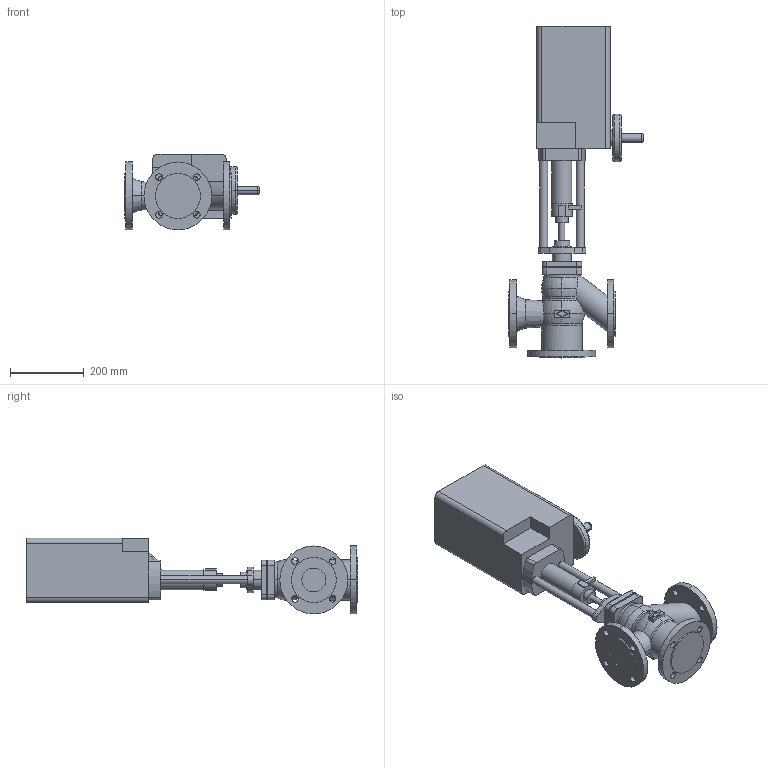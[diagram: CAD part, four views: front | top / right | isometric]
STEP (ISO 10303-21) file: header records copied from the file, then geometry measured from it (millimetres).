
FILE_DESCRIPTION(('OneSpaceDesigner STEP Export'),'2;1');
FILE_NAME('c000002401.stp','2006-09-19T12:01:57',(''),(''),'OneSpace Designer STEP processor for AP214 (Solid Model)','OneSpace Designer 13.20A 18-Aug-2005 (C) CoCreate Software GmbH','');
FILE_SCHEMA(('AUTOMOTIVE_DESIGN { 1 0 10303 214 1 1 1 1 }'));
Length unit declared in the file: millimetre
Products named in the file (2): 1; 2
Bounding box: 366.6 x 903 x 206.5 mm (x, y, z)
Volume: 17464764.4 mm3; surface area: 772089 mm2
Topology: 2 solids, 2 shells, 212 faces, 530 edges, 351 vertices
Faces by surface type: cylinder 94, plane 90, torus 24, cone 4
Entity records: 5847 total; most frequent: CARTESIAN_POINT 1128, ORIENTED_EDGE 1060, DIRECTION 865, EDGE_CURVE 530, VERTEX_POINT 351, AXIS2_PLACEMENT_3D 312, EDGE_LOOP 265, VECTOR 241
